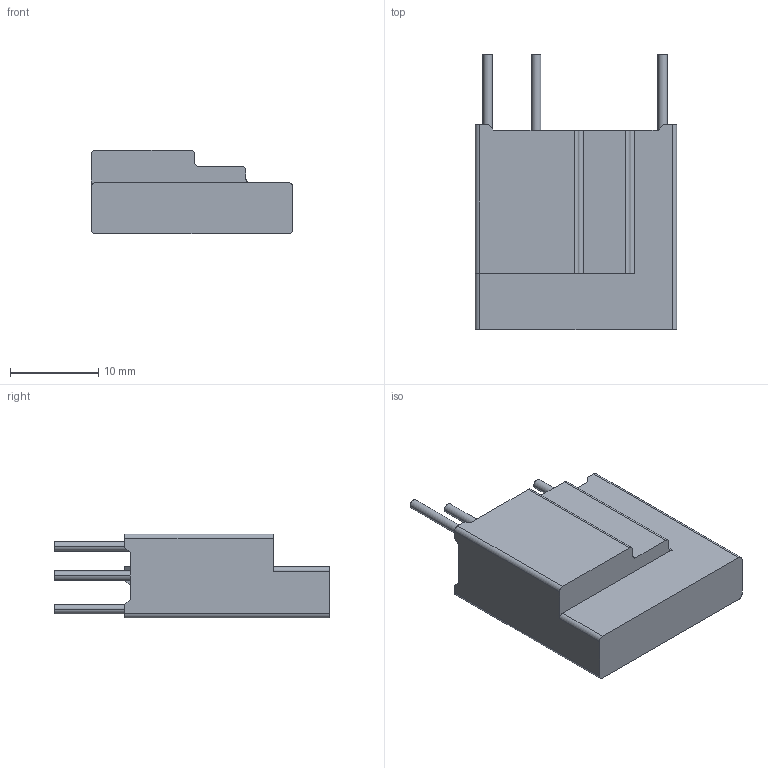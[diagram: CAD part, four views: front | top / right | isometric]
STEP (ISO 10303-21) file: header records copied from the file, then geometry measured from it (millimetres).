
FILE_DESCRIPTION((''),'2;1');
FILE_NAME('20S4301-20200616','2020-06-18T',('set'),(''),'PRO/ENGINEER BY PARAMETRIC TECHNOLOGY CORPORATION, 2012310','PRO/ENGINEER BY PARAMETRIC TECHNOLOGY CORPORATION, 2012310','');
FILE_SCHEMA(('CONFIG_CONTROL_DESIGN','SHAPE_APPEARANCE_LAYERS_GROUPS'));
Length unit declared in the file: millimetre
Products named in the file (1): 20S4301-20200616
Bounding box: 22.8 x 31.2 x 9.5 mm (x, y, z)
Volume: 1306.6 mm3; surface area: 3369.7 mm2
Topology: 1 solids, 2 shells, 104 faces, 290 edges, 193 vertices
Faces by surface type: plane 78, cylinder 26
Entity records: 3368 total; most frequent: CARTESIAN_POINT 587, ORIENTED_EDGE 580, DIRECTION 551, EDGE_CURVE 290, VECTOR 237, LINE 237, VERTEX_POINT 193, AXIS2_PLACEMENT_3D 157
